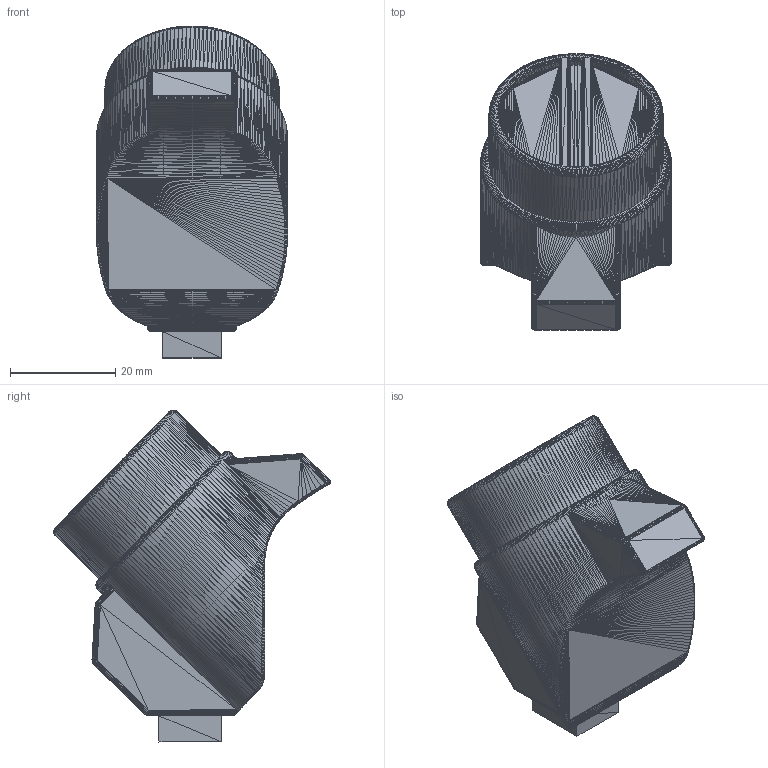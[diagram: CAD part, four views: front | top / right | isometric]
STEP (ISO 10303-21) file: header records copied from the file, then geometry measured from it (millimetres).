
FILE_DESCRIPTION((''),'2;1');
FILE_NAME('Index Finger K1', '2025-03-27T07:42:24', (''), (''), 'ImageToStl.com STEP Converter','', '');
FILE_SCHEMA(('AUTOMOTIVE_DESIGN_CC2'));
Length unit declared in the file: metre
Products named in the file (1): product0
Bounding box: 36.38 x 52.69 x 63.2 mm (x, y, z)
Surface area: 8452.3 mm2 (no closed solid volume)
Topology: 0 solids, 18860 shells, 18860 faces, 56580 edges, 9432 vertices
Faces by surface type: plane 18860
Entity records: 452679 total; most frequent: DIRECTION 94302, ORIENTED_EDGE 56580, EDGE_CURVE 56580, LINE 56580, VECTOR 56580, AXIS2_PLACEMENT_3D 18861, STYLED_ITEM 18861, FACE_SURFACE 18860
